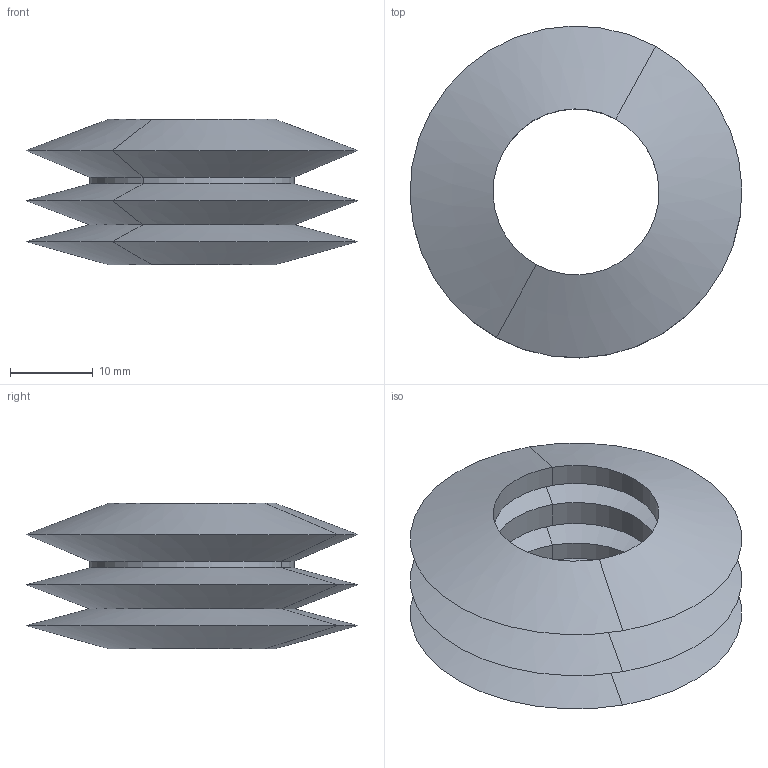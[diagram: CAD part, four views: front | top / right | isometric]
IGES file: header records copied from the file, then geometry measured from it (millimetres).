
Start section: START RECORD GO HERE.
Global section: file name: Belleville.igs; native system: IBM CATIA IGES - CATIA Version 5 Release 18 ; preprocessor: CATIA Version 5 Release 18 ; author: Barry; organization: win764bit; date: 20170723.073519; units: millimetre
Bounding box: 39.99 x 39.99 x 17.54 mm (x, y, z)
Surface area: 8085.9 mm2 (no closed solid volume)
Topology: 0 solids, 0 shells, 34 faces, 136 edges, 136 vertices
Faces by surface type: revolution 34
